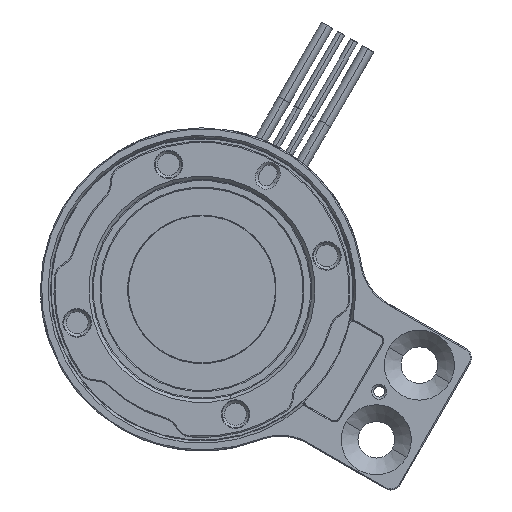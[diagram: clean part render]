
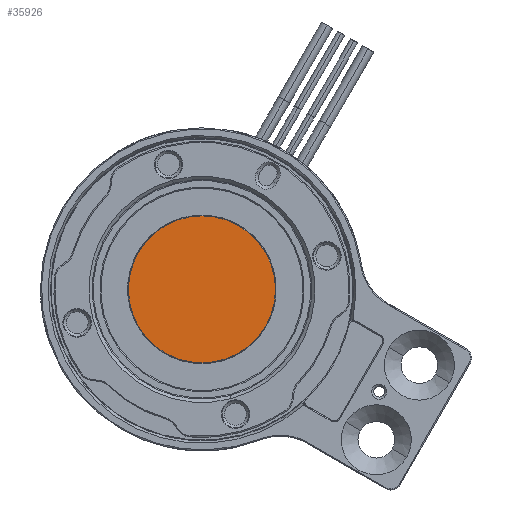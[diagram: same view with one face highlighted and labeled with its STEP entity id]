
A CAD part, front view. The second image highlights one B-rep face of the part: STEP entity #35926.
In plain terms, the highlighted planar face has unit normal (0, -1, 0) as drawn and (-1, 0, 0) by its records, which use the part's own axes.
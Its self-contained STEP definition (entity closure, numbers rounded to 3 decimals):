
#35641=CARTESIAN_POINT('',(0.,0.,0.));
#35642=DIRECTION('',(1.,0.,0.));
#35643=DIRECTION('',(0.,1.,0.));
#35644=AXIS2_PLACEMENT_3D('',#35641,#35642,#35643);
#35646=CARTESIAN_POINT('',(0.,0.,0.));
#35647=DIRECTION('',(1.,0.,0.));
#35648=DIRECTION('',(0.,0.,1.));
#35649=AXIS2_PLACEMENT_3D('',#35646,#35647,#35648);
#35651=CARTESIAN_POINT('',(0.,0.,0.));
#35652=DIRECTION('',(1.,0.,0.));
#35653=DIRECTION('',(0.,-1.,0.));
#35654=AXIS2_PLACEMENT_3D('',#35651,#35652,#35653);
#35656=CARTESIAN_POINT('',(0.,0.,0.));
#35657=DIRECTION('',(1.,0.,0.));
#35658=DIRECTION('',(0.,0.,-1.));
#35659=AXIS2_PLACEMENT_3D('',#35656,#35657,#35658);
#35851=CARTESIAN_POINT('',(0.,6.827,
0.));
#35852=CARTESIAN_POINT('',(0.,0.,6.827));
#35853=VERTEX_POINT('',#35851);
#35854=VERTEX_POINT('',#35852);
#35855=CARTESIAN_POINT('',(0.,-6.827,
0.));
#35856=VERTEX_POINT('',#35855);
#35857=CARTESIAN_POINT('',(0.,0.,-6.827));
#35858=VERTEX_POINT('',#35857);
#35911=CARTESIAN_POINT('',(0.,0.,0.));
#35912=DIRECTION('',(1.,0.,0.));
#35913=DIRECTION('',(0.,-1.,0.));
#35914=AXIS2_PLACEMENT_3D('',#35911,#35912,#35913);
#35915=PLANE('',#35914);
#35917=ORIENTED_EDGE('',*,*,#35916,.T.);
#35919=ORIENTED_EDGE('',*,*,#35918,.T.);
#35921=ORIENTED_EDGE('',*,*,#35920,.T.);
#35923=ORIENTED_EDGE('',*,*,#35922,.T.);
#35924=EDGE_LOOP('',(#35917,#35919,#35921,#35923));
#35925=FACE_OUTER_BOUND('',#35924,.F.);
#35926=ADVANCED_FACE('',(#35925),#35915,.F.);
#35645=CIRCLE('',#35644,6.827);
#35650=CIRCLE('',#35649,6.827);
#35655=CIRCLE('',#35654,6.827);
#35660=CIRCLE('',#35659,6.827);
#35916=EDGE_CURVE('',#35853,#35854,#35645,.T.);
#35918=EDGE_CURVE('',#35854,#35856,#35650,.T.);
#35920=EDGE_CURVE('',#35856,#35858,#35655,.T.);
#35922=EDGE_CURVE('',#35858,#35853,#35660,.T.);
